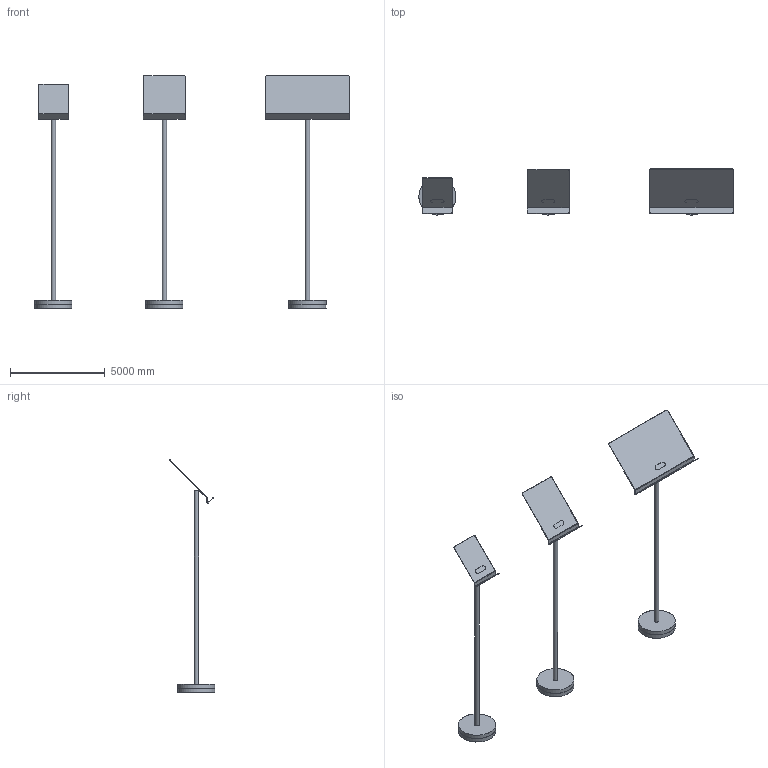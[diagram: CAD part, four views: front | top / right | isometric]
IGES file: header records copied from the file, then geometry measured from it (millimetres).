
Global section: file name: C:\Users\colombo_c\Desktop\Danese\Sito\3D mancanti\Bincan leggio\Bincan leggio.igs; native system: Rhinoceros ( Apr 16 2024 ); preprocessor: Trout Lake IGES 012 Apr 16 2024; date: 250729.071450; units: millimetre
Bounding box: 16617.29 x 2418.72 x 12320.58 mm (x, y, z)
Surface area: 118015607.4 mm2 (no closed solid volume)
Topology: 0 solids, 0 shells, 126 faces, 1014 edges, 1002 vertices
Faces by surface type: bspline 126
